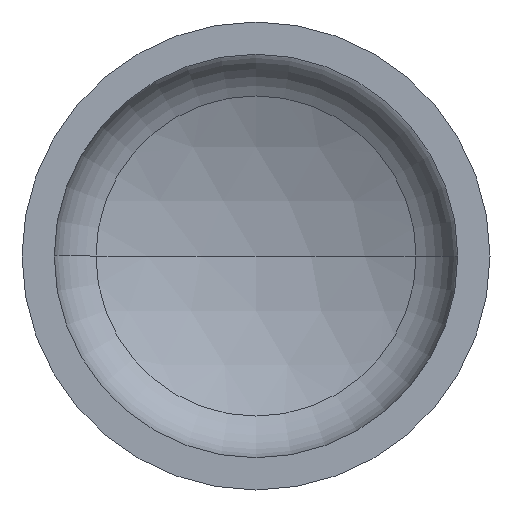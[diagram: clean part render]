
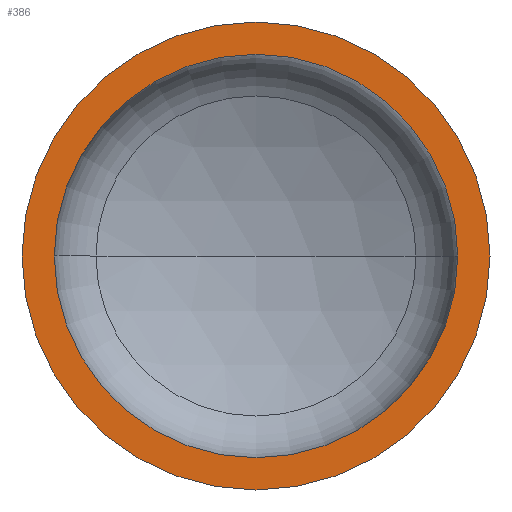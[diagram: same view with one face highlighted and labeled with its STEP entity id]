
A CAD part, front view. The second image highlights one B-rep face of the part: STEP entity #386.
In plain terms, the highlighted planar face has unit normal (0, -1, 0).
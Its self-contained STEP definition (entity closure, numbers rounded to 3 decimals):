
#5 = AXIS2_PLACEMENT_3D ( 'NONE', #216, #243, #403 ) ;
#10 = EDGE_LOOP ( 'NONE', ( #98, #84 ) ) ;
#36 = ORIENTED_EDGE ( 'NONE', *, *, #170, .F. ) ;
#50 = EDGE_LOOP ( 'NONE', ( #36, #78 ) ) ;
#59 = VERTEX_POINT ( 'NONE', #246 ) ;
#77 = VERTEX_POINT ( 'NONE', #227 ) ;
#78 = ORIENTED_EDGE ( 'NONE', *, *, #408, .F. ) ;
#84 = ORIENTED_EDGE ( 'NONE', *, *, #167, .T. ) ;
#93 = VERTEX_POINT ( 'NONE', #244 ) ;
#98 = ORIENTED_EDGE ( 'NONE', *, *, #321, .T. ) ;
#127 = AXIS2_PLACEMENT_3D ( 'NONE', #393, #391, #172 ) ;
#134 = CARTESIAN_POINT ( 'NONE',  ( 0., 0., 0. ) ) ;
#135 = DIRECTION ( 'NONE',  ( 0., -1., 0. ) ) ;
#136 = AXIS2_PLACEMENT_3D ( 'NONE', #213, #191, #194 ) ;
#141 = AXIS2_PLACEMENT_3D ( 'NONE', #223, #220, #221 ) ;
#159 = CIRCLE ( 'NONE', #141, 450. ) ;
#167 = EDGE_CURVE ( 'NONE', #59, #93, #159, .T. ) ;
#170 = EDGE_CURVE ( 'NONE', #77, #374, #226, .T. ) ;
#172 = DIRECTION ( 'NONE',  ( 1., 0., 0. ) ) ;
#191 = DIRECTION ( 'NONE',  ( 0., -1., 0. ) ) ;
#194 = DIRECTION ( 'NONE',  ( 1., 0., 0. ) ) ;
#211 = PLANE ( 'NONE',  #5 ) ;
#213 = CARTESIAN_POINT ( 'NONE',  ( 0., 0., 0. ) ) ;
#216 = CARTESIAN_POINT ( 'NONE',  ( -450., 0., 0. ) ) ;
#220 = DIRECTION ( 'NONE',  ( 0., -1., 0. ) ) ;
#221 = DIRECTION ( 'NONE',  ( 1., 0., 0. ) ) ;
#223 = CARTESIAN_POINT ( 'NONE',  ( 0., 0., 0. ) ) ;
#226 = CIRCLE ( 'NONE', #136, 388. ) ;
#227 = CARTESIAN_POINT ( 'NONE',  ( 388., 0., 0. ) ) ;
#240 = FACE_OUTER_BOUND ( 'NONE', #10, .T. ) ;
#243 = DIRECTION ( 'NONE',  ( 0., 1., 0. ) ) ;
#244 = CARTESIAN_POINT ( 'NONE',  ( 450., 0., 0. ) ) ;
#246 = CARTESIAN_POINT ( 'NONE',  ( -450., 0., 0. ) ) ;
#280 = CARTESIAN_POINT ( 'NONE',  ( -388., 0., 0. ) ) ;
#297 = FACE_BOUND ( 'NONE', #50, .T. ) ;
#321 = EDGE_CURVE ( 'NONE', #93, #59, #383, .T. ) ;
#333 = AXIS2_PLACEMENT_3D ( 'NONE', #134, #135, #358 ) ;
#352 = CIRCLE ( 'NONE', #333, 388. ) ;
#358 = DIRECTION ( 'NONE',  ( 1., 0., 0. ) ) ;
#374 = VERTEX_POINT ( 'NONE', #280 ) ;
#383 = CIRCLE ( 'NONE', #127, 450. ) ;
#386 = ADVANCED_FACE ( 'NONE', ( #297, #240 ), #211, .F. ) ;
#391 = DIRECTION ( 'NONE',  ( 0., -1., 0. ) ) ;
#393 = CARTESIAN_POINT ( 'NONE',  ( 0., 0., 0. ) ) ;
#403 = DIRECTION ( 'NONE',  ( -1., 0., 0. ) ) ;
#408 = EDGE_CURVE ( 'NONE', #374, #77, #352, .T. ) ;
